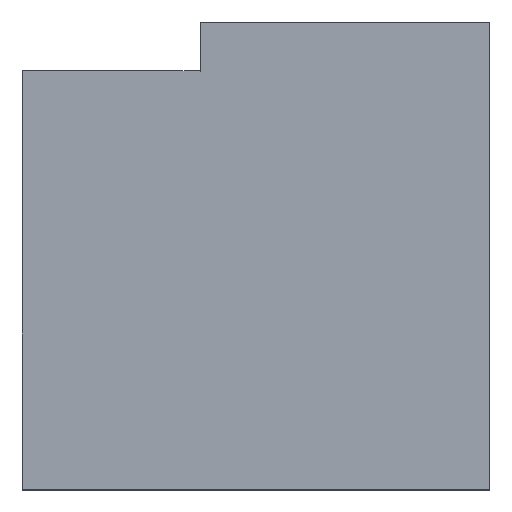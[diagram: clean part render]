
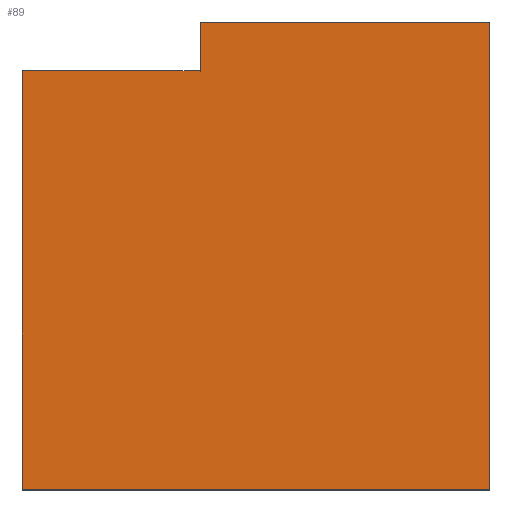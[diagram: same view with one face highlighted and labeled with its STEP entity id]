
A CAD part, top view. The second image highlights one B-rep face of the part: STEP entity #89.
In plain terms, the highlighted planar face has unit normal (0, 0, 1).
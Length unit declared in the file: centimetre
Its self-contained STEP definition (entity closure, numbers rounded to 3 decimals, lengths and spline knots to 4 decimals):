
#4 = CARTESIAN_POINT ( 'NONE',  ( 380.2621, 895.7819, 1000. ) ) ;
#5 = DIRECTION ( 'NONE',  ( 0., 0., 1. ) ) ;
#15 = VECTOR ( 'NONE', #36, 100. ) ;
#21 = VERTEX_POINT ( 'NONE', #261 ) ;
#31 = EDGE_CURVE ( 'NONE', #246, #397, #66, .T. ) ;
#33 = ORIENTED_EDGE ( 'NONE', *, *, #314, .T. ) ;
#36 = DIRECTION ( 'NONE',  ( -1., 0., 0. ) ) ;
#38 = DIRECTION ( 'NONE',  ( 1., 0., 0. ) ) ;
#49 = VECTOR ( 'NONE', #81, 100. ) ;
#52 = ORIENTED_EDGE ( 'NONE', *, *, #395, .T. ) ;
#53 = VECTOR ( 'NONE', #38, 100. ) ;
#58 = EDGE_LOOP ( 'NONE', ( #52, #64, #199, #33, #387, #186 ) ) ;
#64 = ORIENTED_EDGE ( 'NONE', *, *, #175, .T. ) ;
#66 = LINE ( 'NONE', #300, #15 ) ;
#67 = LINE ( 'NONE', #163, #115 ) ;
#74 = DIRECTION ( 'NONE',  ( 0., 1., 0. ) ) ;
#81 = DIRECTION ( 'NONE',  ( 0., -1., 0. ) ) ;
#89 = ADVANCED_FACE ( 'NONE', ( #168 ), #413, .T. ) ;
#91 = VERTEX_POINT ( 'NONE', #207 ) ;
#95 = VERTEX_POINT ( 'NONE', #263 ) ;
#104 = CARTESIAN_POINT ( 'NONE',  ( 380.2621, 1000., 1000. ) ) ;
#115 = VECTOR ( 'NONE', #287, 100. ) ;
#125 = EDGE_CURVE ( 'NONE', #21, #95, #338, .T. ) ;
#135 = CARTESIAN_POINT ( 'NONE',  ( 1000., 1000., 1000. ) ) ;
#136 = DIRECTION ( 'NONE',  ( 1., 0., 0. ) ) ;
#143 = CARTESIAN_POINT ( 'NONE',  ( 0., 0., 1000. ) ) ;
#158 = VECTOR ( 'NONE', #74, 100. ) ;
#163 = CARTESIAN_POINT ( 'NONE',  ( 380.2621, 895.7819, 1000. ) ) ;
#168 = FACE_OUTER_BOUND ( 'NONE', #58, .T. ) ;
#171 = CARTESIAN_POINT ( 'NONE',  ( 0., 0., 1000. ) ) ;
#175 = EDGE_CURVE ( 'NONE', #91, #21, #215, .T. ) ;
#186 = ORIENTED_EDGE ( 'NONE', *, *, #277, .F. ) ;
#199 = ORIENTED_EDGE ( 'NONE', *, *, #125, .T. ) ;
#207 = CARTESIAN_POINT ( 'NONE',  ( 0., 895.7819, 1000. ) ) ;
#215 = LINE ( 'NONE', #280, #49 ) ;
#244 = AXIS2_PLACEMENT_3D ( 'NONE', #143, #5, #136 ) ;
#246 = VERTEX_POINT ( 'NONE', #409 ) ;
#261 = CARTESIAN_POINT ( 'NONE',  ( 0., 0., 1000. ) ) ;
#263 = CARTESIAN_POINT ( 'NONE',  ( 1000., 0., 1000. ) ) ;
#277 = EDGE_CURVE ( 'NONE', #429, #397, #378, .T. ) ;
#280 = CARTESIAN_POINT ( 'NONE',  ( 0., 1000., 1000. ) ) ;
#287 = DIRECTION ( 'NONE',  ( -1., 0., 0. ) ) ;
#300 = CARTESIAN_POINT ( 'NONE',  ( 0., 1000., 1000. ) ) ;
#302 = LINE ( 'NONE', #135, #411 ) ;
#314 = EDGE_CURVE ( 'NONE', #95, #246, #302, .T. ) ;
#332 = CARTESIAN_POINT ( 'NONE',  ( 380.2621, 1000., 1000. ) ) ;
#337 = DIRECTION ( 'NONE',  ( 0., 1., 0. ) ) ;
#338 = LINE ( 'NONE', #171, #53 ) ;
#378 = LINE ( 'NONE', #104, #158 ) ;
#387 = ORIENTED_EDGE ( 'NONE', *, *, #31, .T. ) ;
#395 = EDGE_CURVE ( 'NONE', #429, #91, #67, .T. ) ;
#397 = VERTEX_POINT ( 'NONE', #332 ) ;
#409 = CARTESIAN_POINT ( 'NONE',  ( 1000., 1000., 1000. ) ) ;
#411 = VECTOR ( 'NONE', #337, 100. ) ;
#413 = PLANE ( 'NONE',  #244 ) ;
#429 = VERTEX_POINT ( 'NONE', #4 ) ;
